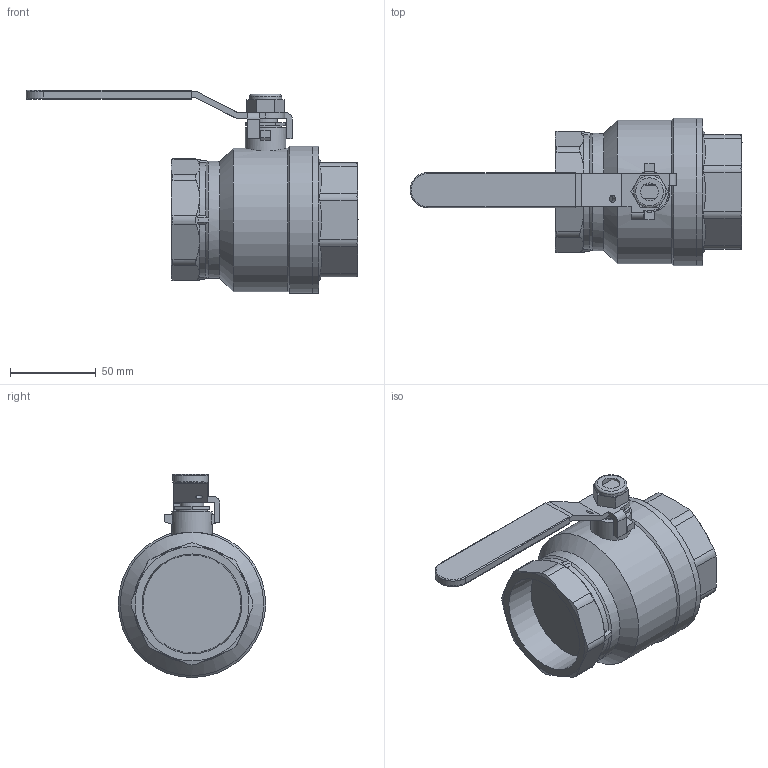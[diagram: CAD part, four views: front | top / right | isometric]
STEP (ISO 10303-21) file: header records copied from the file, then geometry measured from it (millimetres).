
FILE_DESCRIPTION((' '),'2;1');
FILE_NAME('N:\Technical Support\Private\Jomar Valve CAD\Ball Valves\Brass\2.0 JF-100T (100-108)FusionCopy.stp.step','2016-04-27T16:44:01',(' '),(' '),' ','ACIS',' ');
FILE_SCHEMA(('CONFIG_CONTROL_DESIGN'));
Length unit declared in the file: inch
Products named in the file (8): N:\Technical Support\Private\Jomar Valve CAD\Ball Valves\Brass\2.0 JF-100T (100-108)FusionCopy.stp.step; Body1; Body2; Body3; Body4; Body5; Body6; Body7
Assembly tree (7 placements, depth 2):
  N:\Technical Support\Private\Jomar Valve CAD\Ball Valves\Brass\2.0 JF-100T (100-108)FusionCopy.stp.step
    Body1
    Body2
    Body3
    Body4
    Body5
    Body6
    Body7
Bounding box: 194.06 x 86.11 x 118.71 mm (x, y, z)
Volume: 443406.1 mm3; surface area: 71342.1 mm2
Topology: 7 solids, 7 shells, 194 faces, 475 edges, 303 vertices
Faces by surface type: plane 94, cylinder 46, cone 36, bspline 15, torus 3
Full cylindrical faces by diameter (mm): 4.064 x1, 10.414 x1, 13.97 x1, 14.732 x1, 18.161 x1, 18.796 x1, 23.749 x1, 68.453 x1, 83.82 x1, 86.106 x2
Entity records: 6979 total; most frequent: CARTESIAN_POINT 1740, ORIENTED_EDGE 898, DIRECTION 791, EDGE_CURVE 449, AXIS2_PLACEMENT_3D 301, VERTEX_POINT 294, EDGE_LOOP 227, FACE_OUTER_BOUND 194
